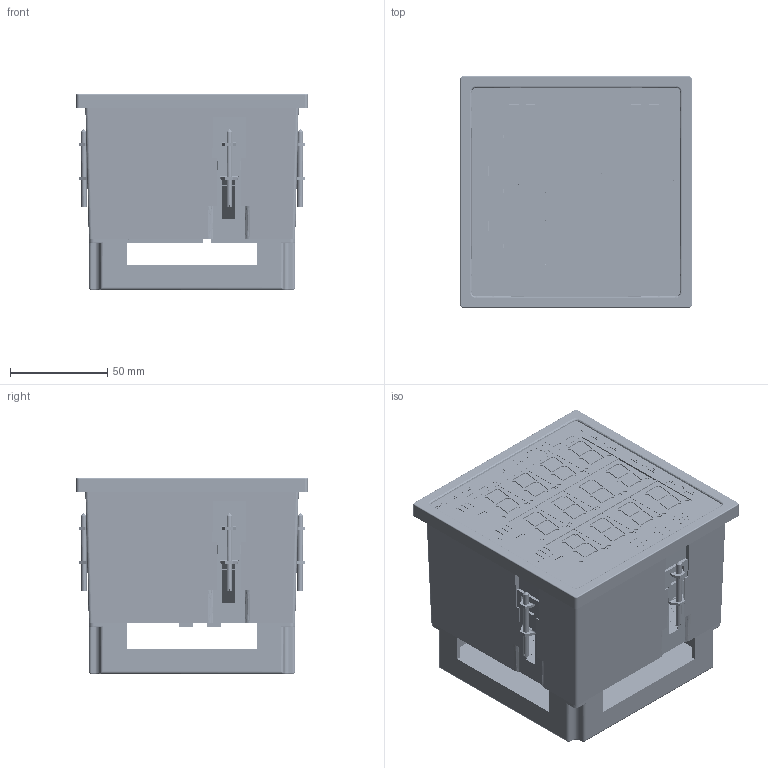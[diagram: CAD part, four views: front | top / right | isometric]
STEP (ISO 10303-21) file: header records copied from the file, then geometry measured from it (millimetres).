
FILE_DESCRIPTION (( 'STEP AP214' ), '1' );
FILE_NAME ('3d_c9255tr_3n_120x120x103.STEP', '2025-10-20T10:13:29', ( '' ), ( '' ), 'SwSTEP 2.0', 'SolidWorks 2021', '' );
FILE_SCHEMA (( 'AUTOMOTIVE_DESIGN' ));
Length unit declared in the file: millimetre
Products named in the file (67): Êîïèÿ green-led-with-border^sborka-c9255tr-3n_step; Êîïèÿ (7) Êîïèÿ indicator-FYS-8011^sborka-c9255tr-3n_step; Êîïèÿ mark-FYS-8011^Êîïèÿ (11) Êîïèÿ indicator-FYS-8011_sborka-c9255tr-3n_step; Êîïèÿ (8) Êîïèÿ indicator-FYS-8011^sborka-c9255tr-3n_step; DG271R-body_step; Çàäíÿÿ êðûøêà ÖÔ9285; Êîïèÿ (12) Êîïèÿ indicator-FYS-8011^sborka-c9255tr-3n_step; Êîïèÿ 15EDGRC-3.5-06P^sborka-c9255tr-3n; Êîïèÿ 15EDGVC-3.5-sidewall^Êîïèÿ 15EDGRC-3.5-06P_sborka-c9255tr-3n; Êîïèÿ 15EDGRC-3.5-01P^15EDGRC-3.5-04P; Êîïèÿ (2) Êîïèÿ indicator-FYS-8011^sborka-c9255tr-3n_step; 櫻蠉錪6^DG271R-5.0-6-x_step; blue-led-5_step; Êîïèÿ mark-FYS-8011^Êîïèÿ (9) Êîïèÿ indicator-FYS-8011_sborka-c9255tr-3n_step; Êîïèÿ mark-FYS-8011^Êîïèÿ (3) Êîïèÿ indicator-FYS-8011_sborka-c9255tr-3n_step; Êîïèÿ (5) Êîïèÿ indicator-FYS-8011^sborka-c9255tr-3n_step; red-led-with-border_step; Êîïèÿ (9) Êîïèÿ indicator-FYS-8011^sborka-c9255tr-3n_step; no-color-led-5; Êîïèÿ Ñáîðêà ñêîáà ÖÔ9285^sborka-c9255tr-3n_step; border_for_body_elc_120x120x103; 3d_c9255tr_3n_120x120x103; 15EDGRC-3.5-06P; 櫻蠉錪2^DG271R-5.0-2-x; DG271R-5.0-6-x_step; Êîïèÿ (10) Êîïèÿ indicator-FYS-8011^sborka-c9255tr-3n_step; ñêîáà-1_step; RS-485-label^sborka-c9255tr-3n_step; Êîïèÿ mark-FYS-8011^Êîïèÿ (12) Êîïèÿ indicator-FYS-8011_sborka-c9255tr-3n_step; Êîïèÿ mark-FYS-8011^Êîïèÿ (10) Êîïèÿ indicator-FYS-8011_sborka-c9255tr-3n_step; Êîïèÿ mark-FYS-8011^Êîïèÿ (6) Êîïèÿ indicator-FYS-8011_sborka-c9255tr-3n_step; ñêîáà-2; Êîïèÿ mark-FYS-8011^Êîïèÿ (8) Êîïèÿ indicator-FYS-8011_sborka-c9255tr-3n_step; Êîïèÿ (6) Êîïèÿ indicator-FYS-8011^sborka-c9255tr-3n_step; 15EDGRC-3.5-01P; Êîïèÿ (3) Êîïèÿ indicator-FYS-8011^sborka-c9255tr-3n_step; Êîïèÿ mark-FYS-8011^Êîïèÿ Êîïèÿ indicator-FYS-8011_sborka-c9255tr-3n_step; body_elc_120x120x103_step; 櫻蠉錪5^DG271R-5.0-6-x_step; Êîïèÿ (4) Êîïèÿ indicator-FYS-8011^sborka-c9255tr-3n_step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
Assembly tree (122 placements, depth 3):
  Êîïèÿ mark-FYS-8011^Êîïèÿ (11) Êîïèÿ indicator-FYS-8011_sborka-c9255tr-3n_step
  櫻蠉錪6^DG271R-5.0-6-x_step
  Êîïèÿ mark-FYS-8011^Êîïèÿ (9) Êîïèÿ indicator-FYS-8011_sborka-c9255tr-3n_step
  Êîïèÿ mark-FYS-8011^Êîïèÿ (3) Êîïèÿ indicator-FYS-8011_sborka-c9255tr-3n_step
  3d_c9255tr_3n_120x120x103
    body_elc_120x120x103_step
    Êîïèÿ Êîïèÿ ïåðåäíÿÿ_ïàíåëü^sborka-c9255tr-3n_step
    border_for_body_elc_120x120x103
    Êîïèÿ Ñáîðêà ñêîáà ÖÔ9285^sborka-c9255tr-3n_step  x4
      Ñêîáà ÖÔ9285
      Âèíò äëÿ ñêîáû ÖÔ9285_step
    Çàäíÿÿ êðûøêà ÖÔ9285
    no-color-led-5  x18
    blue-led-5_step
    green-led-5_step  x2
    Êîïèÿ orange-led-with-border^sborka-c9255tr-3n_step
    red-led-with-border_step
    Êîïèÿ green-led-with-border^sborka-c9255tr-3n_step
    Êîïèÿ Êîïèÿ indicator-FYS-8011^sborka-c9255tr-3n_step
      indicator-FYS-8011
    Êîïèÿ (2) Êîïèÿ indicator-FYS-8011^sborka-c9255tr-3n_step
      indicator-FYS-8011_step
    Êîïèÿ (3) Êîïèÿ indicator-FYS-8011^sborka-c9255tr-3n_step
      indicator-FYS-8011_step
    Êîïèÿ (4) Êîïèÿ indicator-FYS-8011^sborka-c9255tr-3n_step
      indicator-FYS-8011
    Êîïèÿ (5) Êîïèÿ indicator-FYS-8011^sborka-c9255tr-3n_step
      indicator-FYS-8011
    Êîïèÿ (6) Êîïèÿ indicator-FYS-8011^sborka-c9255tr-3n_step
      indicator-FYS-8011_step
    Êîïèÿ (7) Êîïèÿ indicator-FYS-8011^sborka-c9255tr-3n_step
      indicator-FYS-8011_step
    Êîïèÿ (8) Êîïèÿ indicator-FYS-8011^sborka-c9255tr-3n_step
      indicator-FYS-8011_step
    Êîïèÿ (10) Êîïèÿ indicator-FYS-8011^sborka-c9255tr-3n_step
      indicator-FYS-8011_step
    Êîïèÿ (9) Êîïèÿ indicator-FYS-8011^sborka-c9255tr-3n_step
      indicator-FYS-8011_step
    Êîïèÿ (11) Êîïèÿ indicator-FYS-8011^sborka-c9255tr-3n_step
      indicator-FYS-8011
    Êîïèÿ (12) Êîïèÿ indicator-FYS-8011^sborka-c9255tr-3n_step
      indicator-FYS-8011_step
    15EDGRC-3.5-04P  x2
      Êîïèÿ 15EDGRC-3.5-01P^15EDGRC-3.5-04P
      Êîïèÿ 15EDGVC-3.5-sidewall^15EDGRC-3.5-04P
    Êîïèÿ 15EDGRC-3.5-06P^sborka-c9255tr-3n  x2
      Êîïèÿ 15EDGRC-3.5-01P^Êîïèÿ 15EDGRC-3.5-06P_sborka-c9255tr-3n
      Êîïèÿ 15EDGVC-3.5-sidewall^Êîïèÿ 15EDGRC-3.5-06P_sborka-c9255tr-3n
    15EDGRC-3.5-06P
      15EDGRC-3.5-01P  x6
      15EDGVC-3.5-sidewall  x2
    DG271R-5.0-6-x_step
      DG271R-body_step  x6
      ñêîáà-1_step  x6
      ñêîáà-2_step
      櫻蠉錪5^DG271R-5.0-6-x_step  x6
      櫻蠉錪2^DG271R-5.0-6-x
    DG271R-5.0-2-x
      DG271R-body  x2
      ñêîáà-1  x2
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Bounding box: 119 x 119 x 100.8 mm (x, y, z)
Volume: 197516.1 mm3; surface area: 226758.9 mm2
Topology: 300 solids, 300 shells, 10056 faces, 25874 edges, 16708 vertices
Faces by surface type: plane 6641, cylinder 2099, bspline 1068, cone 152, sphere 84, torus 12
Entity records: 244292 total; most frequent: CARTESIAN_POINT 91417, ORIENTED_EDGE 27922, DIRECTION 21091, EDGE_CURVE 13961, VECTOR 9547, LINE 9547, VERTEX_POINT 9138, EDGE_LOOP 5837
